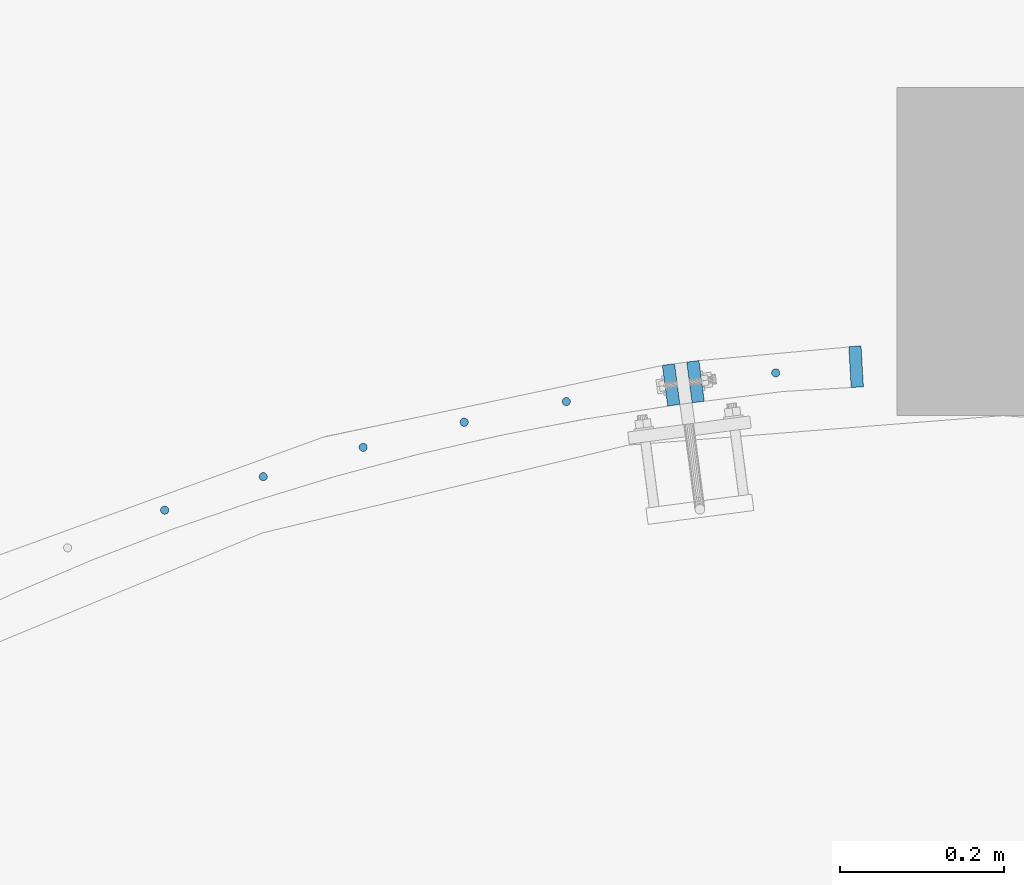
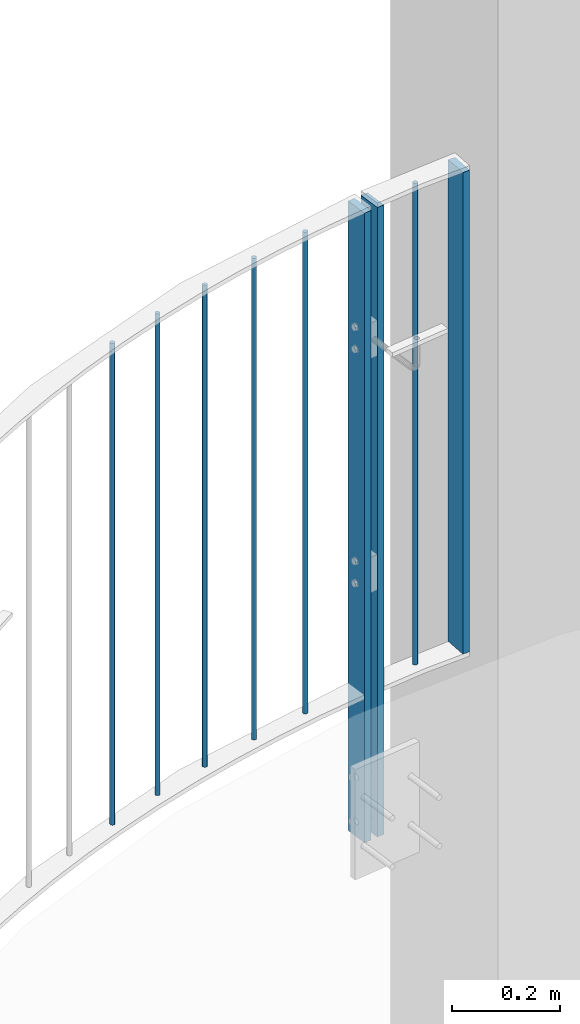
# One storey, part 71 of 296: 9 columns, 12 openings.
"""IFC2X3 building model written with IfcOpenShell, lengths in millimetres."""

from ifc_helpers import new_model, entity, si_unit, converted_unit, frame, frame_2d, origin, origin_with_axes, origin_2d, place, context, project, spatial, rectangle, circle, extrude, material, element, save


model = new_model("IFC2X3")

# Units and contexts
model_context = context("Model", 3, precision=1e-09, world=origin_with_axes())
ifc_project = project(units=[si_unit("LENGTHUNIT", "METRE", prefix="MILLI"), si_unit("AREAUNIT", "SQUARE_METRE"), si_unit("VOLUMEUNIT", "CUBIC_METRE"), converted_unit("PLANEANGLEUNIT", "DEGREE", entity("IfcPlaneAngleMeasure", 0.01745329), si_unit("PLANEANGLEUNIT", "RADIAN"), dimensions=[0, 0, 0, 0, 0, 0, 0])], contexts=[model_context])

# Site, building, storey
site_placement = place(None, origin_with_axes())
site = spatial("IfcSite", under=ifc_project, at=site_placement, Name="TZD-S?d | Treppenhausgel?nder", CompositionType="ELEMENT")
building_placement = place(site_placement, origin_with_axes())
building = spatial("IfcBuilding", under=site, at=building_placement, Name="Struktur 1", CompositionType="ELEMENT")
storey_placement = place(building_placement, origin_with_axes())
storey = spatial("IfcBuildingStorey", under=building, at=storey_placement, Name="Default Storey", CompositionType="ELEMENT", Elevation=0.0)

# Columns
ifc_material = material(Name="S235JR")
for number, where, z_axis, x_axis in (
    (1, (1902.351515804, 2709.675167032, 7350.0), (0.0, 0.0, 1.0), (0.766044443, 0.64278761, 0.0)),
    (2, (2022.547426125, 2750.554570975, 7350.0), (0.0, 0.0, 1.0), (0.766044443, 0.64278761, 0.0)),
    (3, (2144.370361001, 2786.294675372, 7350.0), (0.0, 0.0, 1.0), (0.766044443, 0.64278761, 0.0)),
    (4, (2267.600684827, 2816.831044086, 7350.0), (0.0, 0.0, 1.0), (0.766044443, 0.64278761, 0.0)),
    (5, (2392.016224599, 2842.108622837, 7350.0), (0.0, 0.0, 1.0), (0.766044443, 0.64278761, 0.0)),
    (6, (2647.31876453, 2877.077951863, 7350.0), (0.0, 0.0, 1.0), (0.0, 1.0, 0.0)),
):
    element("IfcColumn", number, at=place(None, frame(where, z_axis=z_axis, x_axis=x_axis)), inside=storey, material=ifc_material, Name="-", ObjectType="-", context=model_context, shape_type="SweptSolid", body=[
        extrude(circle(Radius=5.0, at=origin_2d()), origin(), (0.0, 0.0, 1.0), 1090.0),
    ])
column_1_placement = place(None, frame((2745.395995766, 2884.610301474, 8440.0), z_axis=(0.0, 0.0, 1.0), x_axis=(-0.998341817, -0.057564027, 0.0)))
element("IfcColumn", 7, at=column_1_placement, inside=storey, material=ifc_material, Name="-", ObjectType="-", context=model_context, shape_type="SweptSolid", body=[
    extrude(rectangle(XDim=15.0, YDim=50.0, at=origin_2d()), origin(), (0.0, 0.0, -1.0), 1090.0),
])

# Column, openings
column_2_placement = place(None, frame((2549.598358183, 2866.378028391, 7015.001), z_axis=(0.0, 0.0, -1.0), x_axis=(-0.991444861, -0.130526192, 0.0)))
column_2 = element("IfcColumn", 8, at=column_2_placement, inside=storey, material=ifc_material, Name="-", ObjectType="-", context=model_context, shape_type="SweptSolid", body=[
    extrude(rectangle(XDim=15.0, YDim=50.0, at=origin_2d()), origin(), (0.0, 0.0, -1.0), 1424.999),
])
opening_1_placement = place(column_2_placement, frame((-8.0, 0.0, -599.999999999), z_axis=(1.0, 0.0, 0.0), x_axis=(0.0, -1.0, 0.0)))
element("IfcOpeningElement", 9, at=opening_1_placement, cuts=column_2, ObjectType="Opening", context=model_context, shape_type="SweptSolid", body=[
    extrude(circle(Radius=5.001, at=frame_2d((0.0, 25.0), x_axis=(1.0, 0.0))), origin(), (0.0, 0.0, 1.0), 16.0),
])
opening_2_placement = place(column_2_placement, frame((-8.0, 0.0, -599.999999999), z_axis=(1.0, 0.0, 0.0), x_axis=(0.0, -1.0, 0.0)))
element("IfcOpeningElement", 10, at=opening_2_placement, cuts=column_2, ObjectType="Opening", context=model_context, shape_type="SweptSolid", body=[
    extrude(circle(Radius=5.001, at=frame_2d((0.0, -25.0), x_axis=(1.0, 0.0))), origin(), (0.0, 0.0, 1.0), 16.0),
])
opening_3_placement = place(column_2_placement, frame((-8.0, 0.0, -1129.999999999), z_axis=(1.0, 0.0, 0.0), x_axis=(0.0, -1.0, 0.0)))
element("IfcOpeningElement", 11, at=opening_3_placement, cuts=column_2, ObjectType="Opening", context=model_context, shape_type="SweptSolid", body=[
    extrude(circle(Radius=5.001, at=frame_2d((0.0, 25.0), x_axis=(1.0, 0.0))), origin(), (0.0, 0.0, 1.0), 16.0),
])
opening_4_placement = place(column_2_placement, frame((-8.0, 0.0, -1129.999999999), z_axis=(1.0, 0.0, 0.0), x_axis=(0.0, -1.0, 0.0)))
element("IfcOpeningElement", 12, at=opening_4_placement, cuts=column_2, ObjectType="Opening", context=model_context, shape_type="SweptSolid", body=[
    extrude(circle(Radius=5.001, at=frame_2d((0.0, -25.0), x_axis=(1.0, 0.0))), origin(), (0.0, 0.0, 1.0), 16.0),
])
opening_5_placement = place(column_2_placement, frame((-8.0, 0.0, -85.0), z_axis=(1.0, 0.0, 0.0), x_axis=(0.0, -1.0, 0.0)))
element("IfcOpeningElement", 13, at=opening_5_placement, cuts=column_2, ObjectType="Opening", context=model_context, shape_type="SweptSolid", body=[
    extrude(circle(Radius=7.001, at=frame_2d((0.0, 50.0), x_axis=(1.0, 0.0))), origin(), (0.0, 0.0, 1.0), 16.0),
])
opening_6_placement = place(column_2_placement, frame((-8.0, 0.0, -85.0), z_axis=(1.0, 0.0, 0.0), x_axis=(0.0, -1.0, 0.0)))
element("IfcOpeningElement", 14, at=opening_6_placement, cuts=column_2, ObjectType="Opening", context=model_context, shape_type="SweptSolid", body=[
    extrude(circle(Radius=7.001, at=frame_2d((0.0, -50.0), x_axis=(1.0, 0.0))), origin(), (0.0, 0.0, 1.0), 16.0),
])

column_3_placement = place(None, frame((2519.855012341, 2862.462242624, 7015.001), z_axis=(0.0, 0.0, 1.0), x_axis=(0.991444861, 0.130526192, 0.0)))
column_3 = element("IfcColumn", 15, at=column_3_placement, inside=storey, material=ifc_material, Name="-", ObjectType="-", context=model_context, shape_type="SweptSolid", body=[
    extrude(rectangle(XDim=15.0, YDim=50.0, at=origin_2d()), origin(), (0.0, 0.0, 1.0), 1424.999),
])
opening_7_placement = place(column_3_placement, frame((8.0, 0.0, 85.0), z_axis=(-1.0, 0.0, 0.0), x_axis=(0.0, -1.0, 0.0)))
element("IfcOpeningElement", 16, at=opening_7_placement, cuts=column_3, ObjectType="Opening", context=model_context, shape_type="SweptSolid", body=[
    extrude(circle(Radius=7.001, at=frame_2d((0.0, 50.0), x_axis=(1.0, 0.0))), origin(), (0.0, 0.0, 1.0), 16.0),
])
opening_8_placement = place(column_3_placement, frame((8.0, 0.0, 85.0), z_axis=(-1.0, 0.0, 0.0), x_axis=(0.0, -1.0, 0.0)))
element("IfcOpeningElement", 17, at=opening_8_placement, cuts=column_3, ObjectType="Opening", context=model_context, shape_type="SweptSolid", body=[
    extrude(circle(Radius=7.001, at=frame_2d((0.0, -50.0), x_axis=(1.0, 0.0))), origin(), (0.0, 0.0, 1.0), 16.0),
])
opening_9_placement = place(column_3_placement, frame((8.0, 0.0, 599.999999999), z_axis=(-1.0, 0.0, 0.0), x_axis=(0.0, -1.0, 0.0)))
element("IfcOpeningElement", 18, at=opening_9_placement, cuts=column_3, ObjectType="Opening", context=model_context, shape_type="SweptSolid", body=[
    extrude(circle(Radius=5.001, at=frame_2d((0.0, 25.0), x_axis=(1.0, 0.0))), origin(), (0.0, 0.0, 1.0), 16.0),
])
opening_10_placement = place(column_3_placement, frame((8.0, 0.0, 599.999999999), z_axis=(-1.0, 0.0, 0.0), x_axis=(0.0, -1.0, 0.0)))
element("IfcOpeningElement", 19, at=opening_10_placement, cuts=column_3, ObjectType="Opening", context=model_context, shape_type="SweptSolid", body=[
    extrude(circle(Radius=5.001, at=frame_2d((0.0, -25.0), x_axis=(1.0, 0.0))), origin(), (0.0, 0.0, 1.0), 16.0),
])
opening_11_placement = place(column_3_placement, frame((8.0, 0.0, 1129.999999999), z_axis=(-1.0, 0.0, 0.0), x_axis=(0.0, -1.0, 0.0)))
element("IfcOpeningElement", 20, at=opening_11_placement, cuts=column_3, ObjectType="Opening", context=model_context, shape_type="SweptSolid", body=[
    extrude(circle(Radius=5.001, at=frame_2d((0.0, 25.0), x_axis=(1.0, 0.0))), origin(), (0.0, 0.0, 1.0), 16.0),
])
opening_12_placement = place(column_3_placement, frame((8.0, 0.0, 1129.999999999), z_axis=(-1.0, 0.0, 0.0), x_axis=(0.0, -1.0, 0.0)))
element("IfcOpeningElement", 21, at=opening_12_placement, cuts=column_3, ObjectType="Opening", context=model_context, shape_type="SweptSolid", body=[
    extrude(circle(Radius=5.001, at=frame_2d((0.0, -25.0), x_axis=(1.0, 0.0))), origin(), (0.0, 0.0, 1.0), 16.0),
])

save(model, "model.ifc")
